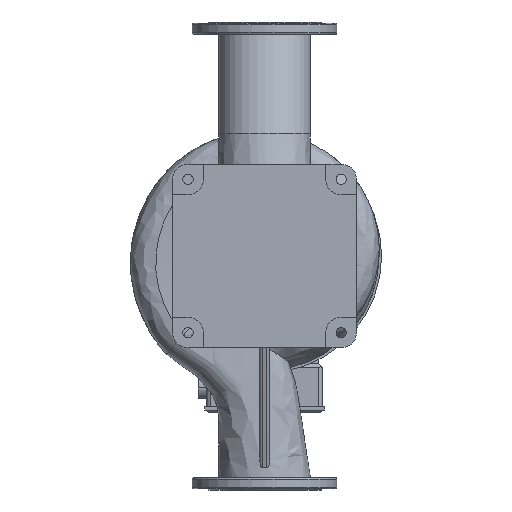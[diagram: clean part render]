
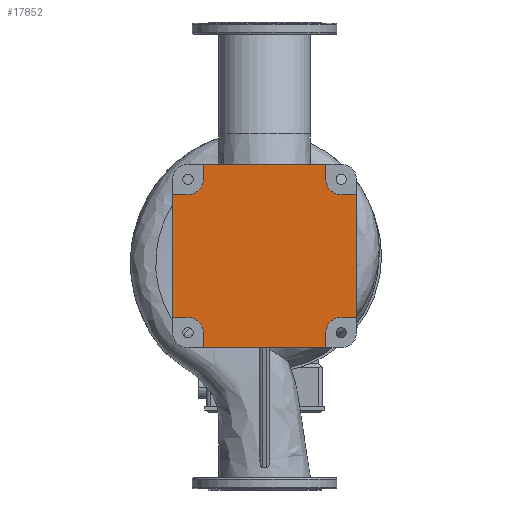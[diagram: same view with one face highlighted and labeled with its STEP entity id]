
A CAD part, front view. The second image highlights one B-rep face of the part: STEP entity #17852.
In plain terms, the highlighted planar face has unit normal (0, -1, 0).
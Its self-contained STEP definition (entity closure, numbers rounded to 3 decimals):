
#189 = CARTESIAN_POINT ( 'NONE',  ( 180., -265., -144. ) ) ;
#452 = ORIENTED_EDGE ( 'NONE', *, *, #35092, .T. ) ;
#545 = CARTESIAN_POINT ( 'NONE',  ( -180., -265., -180. ) ) ;
#596 = DIRECTION ( 'NONE',  ( 0., 0., 1. ) ) ;
#1068 = CARTESIAN_POINT ( 'NONE',  ( -144., -265., -180. ) ) ;
#1081 = VERTEX_POINT ( 'NONE', #13192 ) ;
#1205 = CARTESIAN_POINT ( 'NONE',  ( -216., -265., 144. ) ) ;
#1527 = CARTESIAN_POINT ( 'NONE',  ( -144., -265., -180. ) ) ;
#2106 = ORIENTED_EDGE ( 'NONE', *, *, #29827, .T. ) ;
#2684 = ORIENTED_EDGE ( 'NONE', *, *, #19874, .T. ) ;
#3324 = CIRCLE ( 'NONE', #29623, 36. ) ;
#3440 = VERTEX_POINT ( 'NONE', #5140 ) ;
#3470 = ORIENTED_EDGE ( 'NONE', *, *, #34525, .T. ) ;
#3747 = DIRECTION ( 'NONE',  ( -1., 0., 0. ) ) ;
#4273 = AXIS2_PLACEMENT_3D ( 'NONE', #545, #32944, #5727 ) ;
#4365 = CARTESIAN_POINT ( 'NONE',  ( -180., -265., -180. ) ) ;
#5140 = CARTESIAN_POINT ( 'NONE',  ( -144., -265., -216. ) ) ;
#5215 = VERTEX_POINT ( 'NONE', #26390 ) ;
#5446 = VECTOR ( 'NONE', #25329, 1000. ) ;
#5581 = VECTOR ( 'NONE', #18598, 1000. ) ;
#5666 = CARTESIAN_POINT ( 'NONE',  ( 144., -265., -180. ) ) ;
#5727 = DIRECTION ( 'NONE',  ( 0., 0., 1. ) ) ;
#5956 = CARTESIAN_POINT ( 'NONE',  ( 216., -265., 144. ) ) ;
#6284 = DIRECTION ( 'NONE',  ( 0., 0., -1. ) ) ;
#6299 = ORIENTED_EDGE ( 'NONE', *, *, #18136, .T. ) ;
#6494 = CARTESIAN_POINT ( 'NONE',  ( 144., -265., 180. ) ) ;
#6594 = ORIENTED_EDGE ( 'NONE', *, *, #26281, .T. ) ;
#6712 = LINE ( 'NONE', #1527, #30959 ) ;
#6829 = VERTEX_POINT ( 'NONE', #11679 ) ;
#7122 = EDGE_CURVE ( 'NONE', #10366, #20796, #24712, .T. ) ;
#7362 = EDGE_CURVE ( 'NONE', #34541, #34698, #28282, .T. ) ;
#7476 = ORIENTED_EDGE ( 'NONE', *, *, #25556, .T. ) ;
#7664 = CARTESIAN_POINT ( 'NONE',  ( -144., -265., 216. ) ) ;
#8016 = DIRECTION ( 'NONE',  ( 1., 0., 0. ) ) ;
#8613 = EDGE_CURVE ( 'NONE', #1081, #23603, #28304, .T. ) ;
#9035 = DIRECTION ( 'NONE',  ( 0., 0., -1. ) ) ;
#9052 = DIRECTION ( 'NONE',  ( 0., 0., -1. ) ) ;
#9385 = CARTESIAN_POINT ( 'NONE',  ( -216., -265., -144. ) ) ;
#9596 = DIRECTION ( 'NONE',  ( 0., 0., 1. ) ) ;
#9719 = CARTESIAN_POINT ( 'NONE',  ( 216., -265., -144. ) ) ;
#10245 = CARTESIAN_POINT ( 'NONE',  ( -180., -265., 180. ) ) ;
#10366 = VERTEX_POINT ( 'NONE', #19147 ) ;
#10421 = VECTOR ( 'NONE', #13452, 1000. ) ;
#11612 = VERTEX_POINT ( 'NONE', #24888 ) ;
#11679 = CARTESIAN_POINT ( 'NONE',  ( -144., -265., 180. ) ) ;
#11841 = LINE ( 'NONE', #12020, #12032 ) ;
#12020 = CARTESIAN_POINT ( 'NONE',  ( -144., -265., 180. ) ) ;
#12032 = VECTOR ( 'NONE', #6284, 1000. ) ;
#12472 = CARTESIAN_POINT ( 'NONE',  ( 144., -265., -180. ) ) ;
#12617 = PLANE ( 'NONE',  #18221 ) ;
#12858 = CARTESIAN_POINT ( 'NONE',  ( 216., -265., 144. ) ) ;
#13192 = CARTESIAN_POINT ( 'NONE',  ( -180., -265., -144. ) ) ;
#13452 = DIRECTION ( 'NONE',  ( 1., 0., 0. ) ) ;
#13667 = EDGE_CURVE ( 'NONE', #33158, #10366, #3324, .T. ) ;
#13692 = ORIENTED_EDGE ( 'NONE', *, *, #7362, .T. ) ;
#13732 = ORIENTED_EDGE ( 'NONE', *, *, #15374, .T. ) ;
#13905 = CARTESIAN_POINT ( 'NONE',  ( 180., -265., -180. ) ) ;
#15374 = EDGE_CURVE ( 'NONE', #25293, #33158, #26605, .T. ) ;
#15735 = ORIENTED_EDGE ( 'NONE', *, *, #8613, .T. ) ;
#16497 = CARTESIAN_POINT ( 'NONE',  ( 180., -265., 144. ) ) ;
#16601 = CIRCLE ( 'NONE', #26875, 36. ) ;
#17096 = VECTOR ( 'NONE', #596, 1000. ) ;
#17733 = VECTOR ( 'NONE', #27409, 1000. ) ;
#17852 = ADVANCED_FACE ( 'NONE', ( #31943 ), #12617, .F. ) ;
#18136 = EDGE_CURVE ( 'NONE', #32255, #33681, #28171, .T. ) ;
#18196 = VERTEX_POINT ( 'NONE', #5956 ) ;
#18221 = AXIS2_PLACEMENT_3D ( 'NONE', #4365, #23886, #34268 ) ;
#18598 = DIRECTION ( 'NONE',  ( -1., 0., 0. ) ) ;
#19073 = CARTESIAN_POINT ( 'NONE',  ( 144., -265., 216. ) ) ;
#19147 = CARTESIAN_POINT ( 'NONE',  ( 180., -265., -144. ) ) ;
#19270 = ORIENTED_EDGE ( 'NONE', *, *, #25097, .T. ) ;
#19874 = EDGE_CURVE ( 'NONE', #35361, #6829, #11841, .T. ) ;
#20004 = CIRCLE ( 'NONE', #27421, 36. ) ;
#20063 = CARTESIAN_POINT ( 'NONE',  ( -180., -265., 144. ) ) ;
#20669 = LINE ( 'NONE', #9385, #30787 ) ;
#20796 = VERTEX_POINT ( 'NONE', #9719 ) ;
#21028 = VECTOR ( 'NONE', #8016, 1000. ) ;
#21426 = CARTESIAN_POINT ( 'NONE',  ( 180., -265., 180. ) ) ;
#22192 = ORIENTED_EDGE ( 'NONE', *, *, #26352, .T. ) ;
#23507 = VECTOR ( 'NONE', #3747, 1000. ) ;
#23603 = VERTEX_POINT ( 'NONE', #1068 ) ;
#23850 = LINE ( 'NONE', #16497, #17733 ) ;
#23886 = DIRECTION ( 'NONE',  ( 0., 1., 0. ) ) ;
#24117 = DIRECTION ( 'NONE',  ( 0., 1., 0. ) ) ;
#24712 = LINE ( 'NONE', #189, #10421 ) ;
#24755 = CARTESIAN_POINT ( 'NONE',  ( -144., -265., 216. ) ) ;
#24888 = CARTESIAN_POINT ( 'NONE',  ( 180., -265., 144. ) ) ;
#25097 = EDGE_CURVE ( 'NONE', #33681, #35361, #32198, .T. ) ;
#25293 = VERTEX_POINT ( 'NONE', #33776 ) ;
#25329 = DIRECTION ( 'NONE',  ( 1., 0., 0. ) ) ;
#25556 = EDGE_CURVE ( 'NONE', #11612, #32255, #20004, .T. ) ;
#25805 = LINE ( 'NONE', #12858, #34586 ) ;
#26281 = EDGE_CURVE ( 'NONE', #6829, #34541, #16601, .T. ) ;
#26352 = EDGE_CURVE ( 'NONE', #18196, #11612, #23850, .T. ) ;
#26390 = CARTESIAN_POINT ( 'NONE',  ( -216., -265., -144. ) ) ;
#26605 = LINE ( 'NONE', #12472, #28003 ) ;
#26609 = DIRECTION ( 'NONE',  ( 0., 0., 1. ) ) ;
#26785 = ORIENTED_EDGE ( 'NONE', *, *, #27738, .T. ) ;
#26875 = AXIS2_PLACEMENT_3D ( 'NONE', #10245, #30090, #32780 ) ;
#27409 = DIRECTION ( 'NONE',  ( -1., 0., 0. ) ) ;
#27421 = AXIS2_PLACEMENT_3D ( 'NONE', #21426, #28940, #26609 ) ;
#27738 = EDGE_CURVE ( 'NONE', #23603, #3440, #6712, .T. ) ;
#28003 = VECTOR ( 'NONE', #9596, 1000. ) ;
#28171 = LINE ( 'NONE', #6494, #17096 ) ;
#28249 = CARTESIAN_POINT ( 'NONE',  ( 144., -265., 180. ) ) ;
#28282 = LINE ( 'NONE', #20063, #23507 ) ;
#28304 = CIRCLE ( 'NONE', #4273, 36. ) ;
#28940 = DIRECTION ( 'NONE',  ( 0., 1., 0. ) ) ;
#29064 = EDGE_CURVE ( 'NONE', #20796, #18196, #25805, .T. ) ;
#29466 = ORIENTED_EDGE ( 'NONE', *, *, #7122, .T. ) ;
#29623 = AXIS2_PLACEMENT_3D ( 'NONE', #13905, #24117, #35383 ) ;
#29827 = EDGE_CURVE ( 'NONE', #5215, #1081, #30507, .T. ) ;
#30090 = DIRECTION ( 'NONE',  ( 0., 1., 0. ) ) ;
#30334 = CARTESIAN_POINT ( 'NONE',  ( -180., -265., -144. ) ) ;
#30507 = LINE ( 'NONE', #30334, #5446 ) ;
#30787 = VECTOR ( 'NONE', #9035, 1000. ) ;
#30959 = VECTOR ( 'NONE', #9052, 1000. ) ;
#31012 = ORIENTED_EDGE ( 'NONE', *, *, #13667, .T. ) ;
#31843 = CARTESIAN_POINT ( 'NONE',  ( 144., -265., -216. ) ) ;
#31943 = FACE_OUTER_BOUND ( 'NONE', #35395, .T. ) ;
#32198 = LINE ( 'NONE', #7664, #5581 ) ;
#32255 = VERTEX_POINT ( 'NONE', #28249 ) ;
#32780 = DIRECTION ( 'NONE',  ( 0., 0., 1. ) ) ;
#32944 = DIRECTION ( 'NONE',  ( 0., 1., 0. ) ) ;
#33158 = VERTEX_POINT ( 'NONE', #5666 ) ;
#33681 = VERTEX_POINT ( 'NONE', #19073 ) ;
#33776 = CARTESIAN_POINT ( 'NONE',  ( 144., -265., -216. ) ) ;
#33856 = DIRECTION ( 'NONE',  ( 0., 0., 1. ) ) ;
#34268 = DIRECTION ( 'NONE',  ( 0., 0., 1. ) ) ;
#34525 = EDGE_CURVE ( 'NONE', #3440, #25293, #35233, .T. ) ;
#34541 = VERTEX_POINT ( 'NONE', #34697 ) ;
#34586 = VECTOR ( 'NONE', #33856, 1000. ) ;
#34697 = CARTESIAN_POINT ( 'NONE',  ( -180., -265., 144. ) ) ;
#34698 = VERTEX_POINT ( 'NONE', #1205 ) ;
#35092 = EDGE_CURVE ( 'NONE', #34698, #5215, #20669, .T. ) ;
#35233 = LINE ( 'NONE', #31843, #21028 ) ;
#35361 = VERTEX_POINT ( 'NONE', #24755 ) ;
#35383 = DIRECTION ( 'NONE',  ( 0., 0., 1. ) ) ;
#35395 = EDGE_LOOP ( 'NONE', ( #15735, #26785, #3470, #13732, #31012, #29466, #35437, #22192, #7476, #6299, #19270, #2684, #6594, #13692, #452, #2106 ) ) ;
#35437 = ORIENTED_EDGE ( 'NONE', *, *, #29064, .T. ) ;
